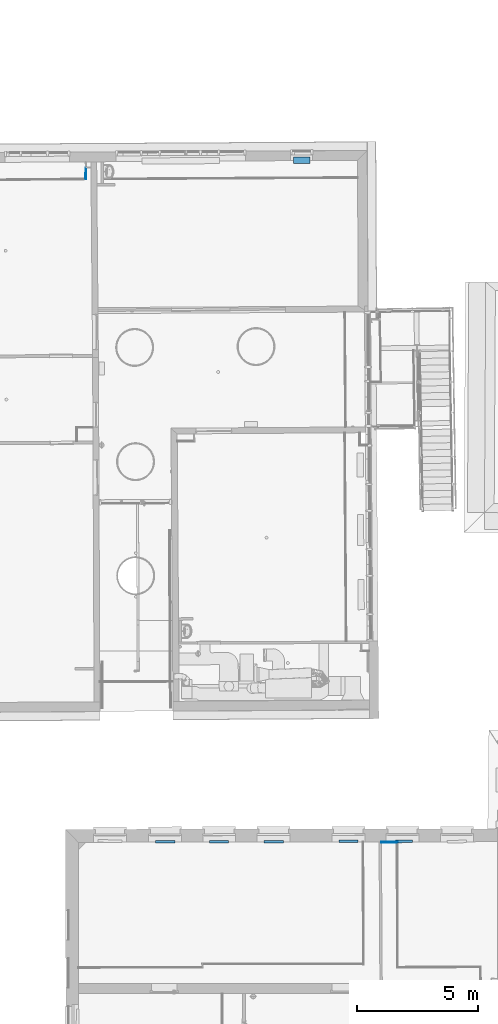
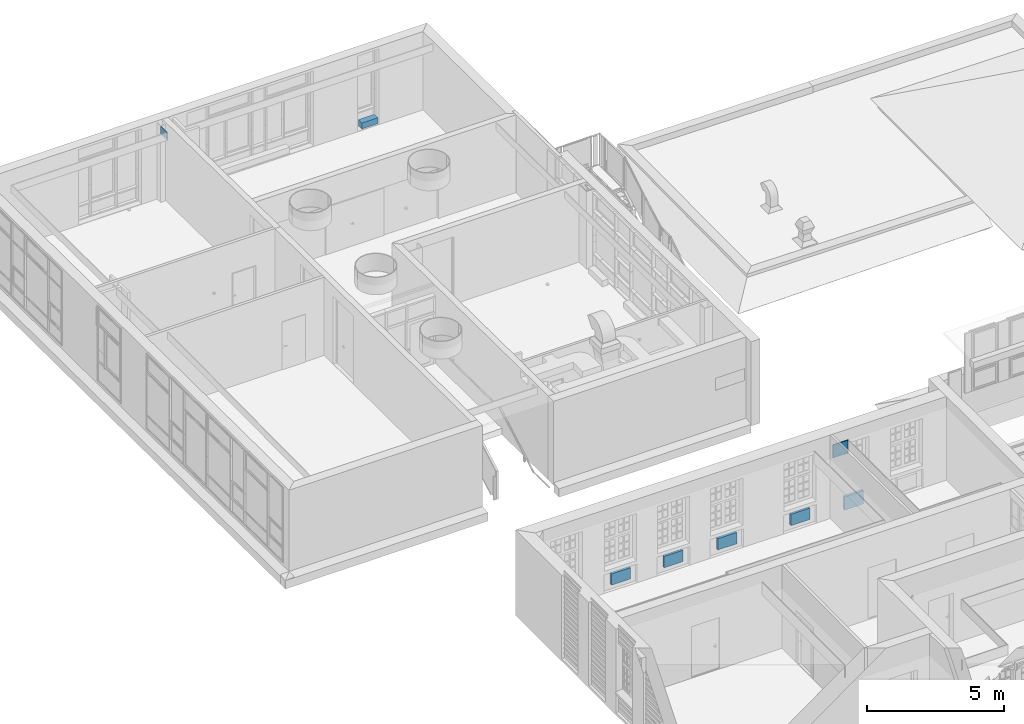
# One storey, part 49 of 158: 8 walls.
"""IFC2X3 building model written with IfcOpenShell, lengths in metres."""

from ifc_helpers import new_model, entity, si_unit, converted_unit, derived_unit, money_unit, direction, frame, origin_with_axes, place, context, subcontext, project, spatial, polyline, outline, extrude, material, layer, layer_set, layer_usage, type_object, element, save


model = new_model("IFC2X3")

# Units and contexts
model_context = context("Model", 3, precision=1e-05, world=origin_with_axes(), true_north=direction((0.0, 1.0)))
body_context = subcontext(model_context, "Body", "Model", "MODEL_VIEW")
ifc_project = project(units=[si_unit("LENGTHUNIT", "METRE"), si_unit("AREAUNIT", "SQUARE_METRE"), si_unit("VOLUMEUNIT", "CUBIC_METRE"), converted_unit("PLANEANGLEUNIT", "DEGREE", entity("IfcPlaneAngleMeasure", 0.0174532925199), si_unit("PLANEANGLEUNIT", "RADIAN"), dimensions=[0, 0, 0, 0, 0, 0, 0]), money_unit("EUR"), converted_unit("TIMEUNIT", "Year", entity("IfcTimeMeasure", 31556926.0), si_unit("TIMEUNIT", "SECOND"), dimensions=[0, 0, 1, 0, 0, 0, 0]), si_unit("MASSUNIT", "GRAM", prefix="KILO"), si_unit("THERMODYNAMICTEMPERATUREUNIT", "DEGREE_CELSIUS"), si_unit("LUMINOUSINTENSITYUNIT", "LUMEN"), si_unit("ENERGYUNIT", "JOULE", prefix="MEGA"), derived_unit("THERMALCONDUCTANCEUNIT", [(si_unit("POWERUNIT", "WATT"), 1), (si_unit("LENGTHUNIT", "METRE"), -1), (si_unit("THERMODYNAMICTEMPERATUREUNIT", "KELVIN"), -1)]), derived_unit("SPECIFICHEATCAPACITYUNIT", [(si_unit("ENERGYUNIT", "JOULE"), 1), (si_unit("MASSUNIT", "GRAM", prefix="KILO"), -1), (si_unit("THERMODYNAMICTEMPERATUREUNIT", "KELVIN"), -1)]), derived_unit("MASSDENSITYUNIT", [(si_unit("MASSUNIT", "GRAM", prefix="KILO"), 1), (si_unit("VOLUMEUNIT", "CUBIC_METRE"), -1)])], contexts=[model_context])

# Site, building, storey
site_placement = place(None, origin_with_axes())
site = spatial("IfcSite", under=ifc_project, at=site_placement, Name="Gelände", CompositionType="ELEMENT")
building_placement = place(site_placement, origin_with_axes())
building = spatial("IfcBuilding", under=site, at=building_placement, Name="Gebäude", CompositionType="ELEMENT")
storey_placement = place(building_placement, origin_with_axes())
storey = spatial("IfcBuildingStorey", under=building, at=storey_placement, Name="ERDGESCHOSS", CompositionType="ELEMENT", Elevation=0.0)

# Walls
ifc_material_1 = material(Name="43_Gipskarton")
ifc_layer_1 = layer(ifc_material_1, 0.03, ventilated="UNKNOWN")
ifc_layer_set_1 = layer_set([ifc_layer_1], Name="43_Gipskarton 0.03")
ifc_layer_usage_1 = layer_usage(ifc_layer_set_1, "AXIS2", "NEGATIVE", 0.0)
wall_type_1 = type_object("IfcWallType", Name="43_Gipskarton 30", PredefinedType="ELEMENTEDWALL")
wall_1_placement = place(storey_placement, frame((-15.0445564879, 25.5114436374, 2.555), z_axis=(0.0, 0.0, 1.0), x_axis=(0.999999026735, 0.00139518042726, 0.0)))
element("IfcWallStandardCase", 1, at=wall_1_placement, inside=storey, type_object=wall_type_1, material=ifc_layer_usage_1, Name="Wand-039", ObjectType="ELEMENTEDWALL", context=body_context, shape_type="SweptSolid", body=[
    extrude(outline(polyline([(0.000137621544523, -0.03), (0.635690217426, -0.03), (0.665642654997, 0.0), (0.0, 0.0), (0.000137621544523, -0.03)])), origin_with_axes(), (0.0, 0.0, 1.0), 0.585),
])
ifc_layer_usage_2 = layer_usage(ifc_layer_set_1, "AXIS2", "NEGATIVE", 0.0)
wall_2_placement = place(storey_placement, frame((-27.252448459, 52.8581817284, 4.375), z_axis=(0.0, 0.0, 1.0), x_axis=(0.0114449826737, 0.999934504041, 0.0)))
element("IfcWallStandardCase", 2, at=wall_2_placement, inside=storey, type_object=wall_type_1, material=ifc_layer_usage_2, Name="Wand-041", ObjectType="ELEMENTEDWALL", context=body_context, shape_type="SweptSolid", body=[
    extrude(outline(polyline([(-0.0293849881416, -0.03), (0.449358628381, -0.03), (0.448038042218, 0.0), (0.0, 0.0), (-0.0293849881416, -0.03)])), origin_with_axes(), (0.0, 0.0, 1.0), 0.335),
])
ifc_material_2 = material(Name="01_ALLGEMEIN - BAUTEIL")
ifc_layer_2 = layer(ifc_material_2, 0.105, ventilated="UNKNOWN")
ifc_layer_set_2 = layer_set([ifc_layer_2], Name="01_ALLGEMEIN - BAUTEIL 0.105")
ifc_layer_usage_3 = layer_usage(ifc_layer_set_2, "AXIS2", "NEGATIVE", 0.0)
wall_type_2 = type_object("IfcWallType", Name="01_ALLGEMEIN - BAUTEIL 105", PredefinedType="ELEMENTEDWALL")
wall_3_placement = place(storey_placement, frame((-13.7623111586, 25.4785320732, 0.071017), z_axis=(0.0, 0.0, 1.0), x_axis=(-0.999976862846, -0.00680248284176, 0.0)))
element("IfcWallStandardCase", 3, at=wall_3_placement, inside=storey, type_object=wall_type_2, material=ifc_layer_usage_3, Name="Wand-037", ObjectType="ELEMENTEDWALL", context=body_context, shape_type="SweptSolid", body=[
    extrude(outline(polyline([(0.0, -0.105), (0.795188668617, -0.105), (0.795188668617, 0.0), (0.0, 0.0), (0.0, -0.105)])), origin_with_axes(), (0.0, 0.0, 1.0), 0.593421),
])
ifc_layer_usage_4 = layer_usage(ifc_layer_set_2, "AXIS2", "NEGATIVE", 0.105)
wall_4_placement = place(storey_placement, frame((-19.8818698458, 25.4728185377, 0.172859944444), z_axis=(0.0, 0.0, 1.0), x_axis=(0.999999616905, 0.000875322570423, 0.0)))
element("IfcWallStandardCase", 4, at=wall_4_placement, inside=storey, type_object=wall_type_2, material=ifc_layer_usage_4, Name="Wand-038", ObjectType="ELEMENTEDWALL", context=body_context, shape_type="SweptSolid", body=[
    extrude(outline(polyline([(0.0, 0.0), (0.79665874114, 0.0), (0.79665874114, 0.105), (0.0, 0.105), (0.0, 0.0)])), origin_with_axes(), (0.0, 0.0, 1.0), 0.501014),
])
ifc_layer_usage_5 = layer_usage(ifc_layer_set_2, "AXIS2", "NEGATIVE", 0.105)
wall_5_placement = place(storey_placement, frame((-24.3649008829, 25.4714311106, 0.172859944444), z_axis=(0.0, 0.0, 1.0), x_axis=(1.0, 0.0, 0.0)))
element("IfcWallStandardCase", 5, at=wall_5_placement, inside=storey, type_object=wall_type_2, material=ifc_layer_usage_5, Name="Wand-039", ObjectType="ELEMENTEDWALL", context=body_context, shape_type="SweptSolid", body=[
    extrude(outline(polyline([(0.0, 0.0), (0.796932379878, 0.0), (0.796932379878, 0.105), (0.0, 0.105), (0.0, 0.0)])), origin_with_axes(), (0.0, 0.0, 1.0), 0.501014),
])
ifc_layer_usage_6 = layer_usage(ifc_layer_set_2, "AXIS2", "NEGATIVE", 0.105)
wall_6_placement = place(storey_placement, frame((-22.1413901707, 25.4711887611, 0.172859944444), z_axis=(0.0, 0.0, 1.0), x_axis=(0.999999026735, 0.00139518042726, 0.0)))
element("IfcWallStandardCase", 6, at=wall_6_placement, inside=storey, type_object=wall_type_2, material=ifc_layer_usage_6, Name="Wand-039", ObjectType="ELEMENTEDWALL", context=body_context, shape_type="SweptSolid", body=[
    extrude(outline(polyline([(0.0, 0.0), (0.796932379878, 0.0), (0.796932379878, 0.105), (0.0, 0.105), (0.0, 0.0)])), origin_with_axes(), (0.0, 0.0, 1.0), 0.501014),
])
ifc_layer_usage_7 = layer_usage(ifc_layer_set_2, "AXIS2", "NEGATIVE", 0.105)
wall_7_placement = place(storey_placement, frame((-16.804398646, 25.480720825, 0.172859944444), z_axis=(0.0, 0.0, 1.0), x_axis=(0.999999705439, -0.000767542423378, 0.0)))
element("IfcWallStandardCase", 7, at=wall_7_placement, inside=storey, type_object=wall_type_2, material=ifc_layer_usage_7, Name="Wand-040", ObjectType="ELEMENTEDWALL", context=body_context, shape_type="SweptSolid", body=[
    extrude(outline(polyline([(0.0, 0.0), (0.794586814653, 0.0), (0.794586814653, 0.105), (0.0, 0.105), (0.0, 0.0)])), origin_with_axes(), (0.0, 0.0, 1.0), 0.501014),
])
ifc_layer_3 = layer(ifc_material_2, 0.255, ventilated="UNKNOWN")
ifc_layer_set_3 = layer_set([ifc_layer_3], Name="01_ALLGEMEIN - BAUTEIL 0.255")
ifc_layer_usage_8 = layer_usage(ifc_layer_set_3, "AXIS2", "NEGATIVE", 0.255)
wall_type_3 = type_object("IfcWallType", Name="01_ALLGEMEIN - BAUTEIL 255", PredefinedType="ELEMENTEDWALL")
wall_8_placement = place(storey_placement, frame((-18.6786556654, 53.4904444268, 1.47369322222), z_axis=(0.0, 0.0, 1.0), x_axis=(0.999979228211, 0.00644539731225, 0.0)))
element("IfcWallStandardCase", 8, at=wall_8_placement, inside=storey, type_object=wall_type_3, material=ifc_layer_usage_8, Name="Wand-030", ObjectType="ELEMENTEDWALL", context=body_context, shape_type="SweptSolid", body=[
    extrude(outline(polyline([(0.0, 0.0), (0.689440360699, 0.0), (0.689440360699, 0.255), (0.0, 0.255), (0.0, 0.0)])), origin_with_axes(), (0.0, 0.0, 1.0), 0.260503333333),
])

save(model, "model.ifc")
